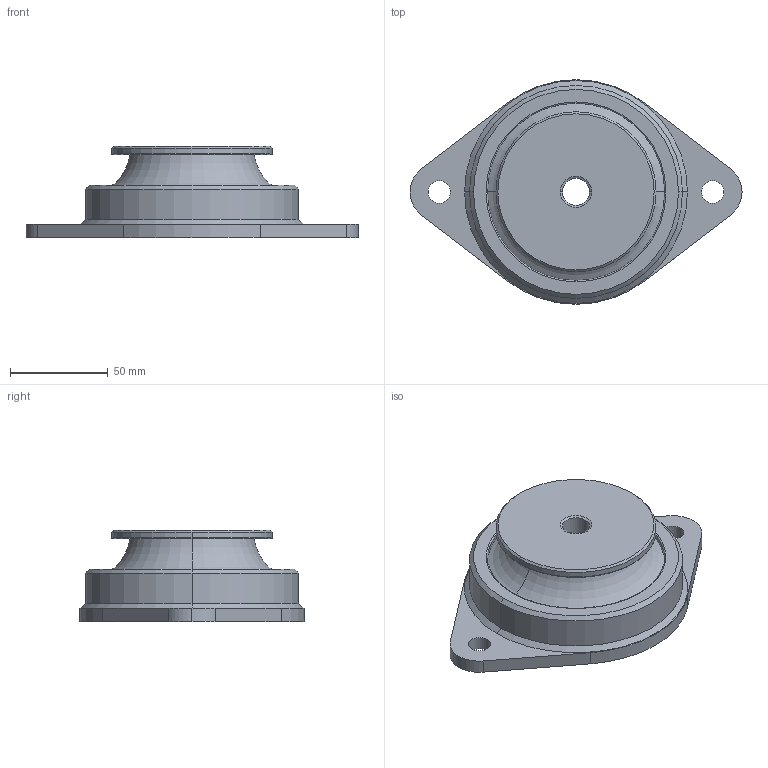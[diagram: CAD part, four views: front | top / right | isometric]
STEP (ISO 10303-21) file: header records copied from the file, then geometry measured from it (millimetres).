
FILE_DESCRIPTION(('STEP AP214'),'1');
FILE_NAME('U:/Inhalte (Daten)/Content neue Seite/CAD Files/EluFlex_120_SF.stp','2015-11-10T15:52:45',(' '),(' '),'Spatial InterOp 3D',' ',' ');
FILE_SCHEMA(('automotive_design'));
Length unit declared in the file: millimetre
Products named in the file (1): 1
Bounding box: 170 x 115 x 47 mm (x, y, z)
Volume: 292527.9 mm3; surface area: 53095 mm2
Topology: 1 solids, 1 shells, 67 faces, 157 edges, 97 vertices
Faces by surface type: cylinder 24, torus 16, cone 16, plane 11
Entity records: 1979 total; most frequent: DIRECTION 398, CARTESIAN_POINT 322, ORIENTED_EDGE 314, AXIS2_PLACEMENT_3D 173, EDGE_CURVE 157, CIRCLE 105, VERTEX_POINT 97, EDGE_LOOP 78
